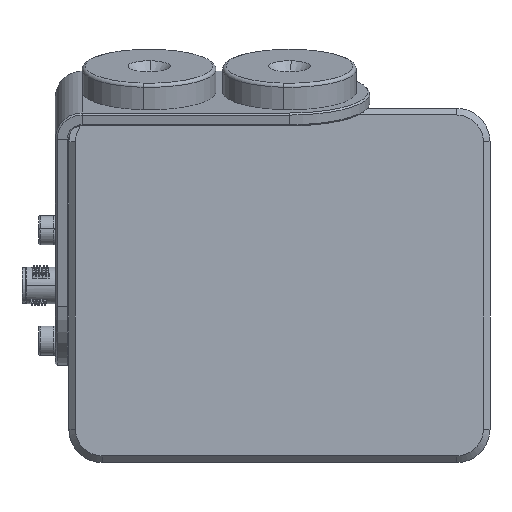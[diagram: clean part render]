
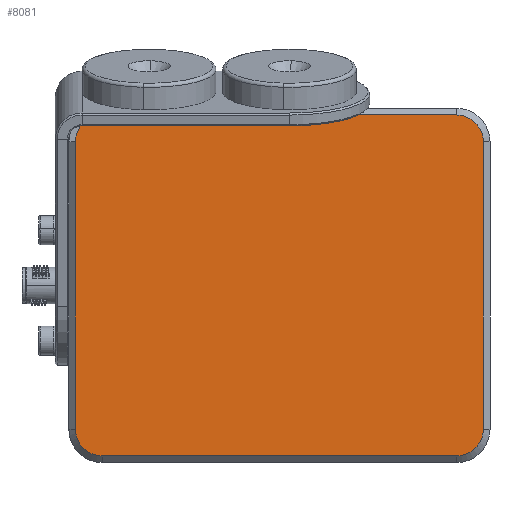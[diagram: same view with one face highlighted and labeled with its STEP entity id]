
A CAD part, front view. The second image highlights one B-rep face of the part: STEP entity #8081.
In plain terms, the highlighted planar face has unit normal (0, -1, 0).
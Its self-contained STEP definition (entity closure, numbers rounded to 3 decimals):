
#331 = CARTESIAN_POINT ( 'NONE',  ( 48.364, -14.091, -51. ) ) ;
#451 = DIRECTION ( 'NONE',  ( 0., -1., 0. ) ) ;
#1039 = EDGE_CURVE ( 'NONE', #18177, #10612, #2800, .T. ) ;
#1529 = EDGE_LOOP ( 'NONE', ( #23645, #26268, #7251, #26240, #24291, #6234, #19821, #16571 ) ) ;
#2025 = VERTEX_POINT ( 'NONE', #17130 ) ;
#2070 = FACE_OUTER_BOUND ( 'NONE', #1529, .T. ) ;
#2258 = CARTESIAN_POINT ( 'NONE',  ( -57.636, -14.091, -51. ) ) ;
#2746 = VECTOR ( 'NONE', #17248, 1000. ) ;
#2800 = CIRCLE ( 'NONE', #15396, 8. ) ;
#2822 = LINE ( 'NONE', #16993, #7758 ) ;
#3100 = LINE ( 'NONE', #22736, #8040 ) ;
#3317 = CARTESIAN_POINT ( 'NONE',  ( 48.364, -14.091, 43. ) ) ;
#3408 = LINE ( 'NONE', #19338, #2746 ) ;
#3499 = AXIS2_PLACEMENT_3D ( 'NONE', #13107, #451, #15180 ) ;
#4133 = VERTEX_POINT ( 'NONE', #23093 ) ;
#4311 = VERTEX_POINT ( 'NONE', #11503 ) ;
#4454 = DIRECTION ( 'NONE',  ( 0., 0., -1. ) ) ;
#5469 = DIRECTION ( 'NONE',  ( 0., 0., -1. ) ) ;
#5539 = CARTESIAN_POINT ( 'NONE',  ( -65.636, -14.091, 43. ) ) ;
#6098 = CARTESIAN_POINT ( 'NONE',  ( 48.364, -14.091, -43. ) ) ;
#6234 = ORIENTED_EDGE ( 'NONE', *, *, #1039, .T. ) ;
#6526 = PLANE ( 'NONE',  #3499 ) ;
#7251 = ORIENTED_EDGE ( 'NONE', *, *, #16131, .T. ) ;
#7598 = EDGE_CURVE ( 'NONE', #8656, #18029, #26530, .T. ) ;
#7758 = VECTOR ( 'NONE', #4454, 1000. ) ;
#8040 = VECTOR ( 'NONE', #12347, 1000. ) ;
#8081 = ADVANCED_FACE ( 'NONE', ( #2070 ), #6526, .T. ) ;
#8201 = DIRECTION ( 'NONE',  ( 0., 0., -1. ) ) ;
#8656 = VERTEX_POINT ( 'NONE', #22487 ) ;
#9184 = AXIS2_PLACEMENT_3D ( 'NONE', #6098, #20748, #8201 ) ;
#9333 = DIRECTION ( 'NONE',  ( 0., -1., 0. ) ) ;
#10032 = DIRECTION ( 'NONE',  ( 0., 0., 1. ) ) ;
#10384 = DIRECTION ( 'NONE',  ( 0., 0., -1. ) ) ;
#10422 = DIRECTION ( 'NONE',  ( 0., -1., 0. ) ) ;
#10473 = CARTESIAN_POINT ( 'NONE',  ( -57.636, -14.091, 43. ) ) ;
#10612 = VERTEX_POINT ( 'NONE', #5539 ) ;
#10950 = EDGE_CURVE ( 'NONE', #4133, #18177, #3100, .T. ) ;
#11503 = CARTESIAN_POINT ( 'NONE',  ( 56.364, -14.091, -43. ) ) ;
#12105 = LINE ( 'NONE', #20539, #23204 ) ;
#12347 = DIRECTION ( 'NONE',  ( -1., 0., 0. ) ) ;
#13107 = CARTESIAN_POINT ( 'NONE',  ( 58.364, -14.091, -53. ) ) ;
#13796 = EDGE_CURVE ( 'NONE', #18029, #24778, #3408, .T. ) ;
#15180 = DIRECTION ( 'NONE',  ( 0., 0., -1. ) ) ;
#15396 = AXIS2_PLACEMENT_3D ( 'NONE', #10473, #10422, #10384 ) ;
#16131 = EDGE_CURVE ( 'NONE', #4311, #2025, #12105, .T. ) ;
#16571 = ORIENTED_EDGE ( 'NONE', *, *, #7598, .T. ) ;
#16776 = AXIS2_PLACEMENT_3D ( 'NONE', #3317, #18034, #5469 ) ;
#16993 = CARTESIAN_POINT ( 'NONE',  ( -65.636, -14.091, -43. ) ) ;
#17130 = CARTESIAN_POINT ( 'NONE',  ( 56.364, -14.091, 43. ) ) ;
#17140 = EDGE_CURVE ( 'NONE', #24778, #4311, #23451, .T. ) ;
#17248 = DIRECTION ( 'NONE',  ( 1., 0., 0. ) ) ;
#18029 = VERTEX_POINT ( 'NONE', #2258 ) ;
#18034 = DIRECTION ( 'NONE',  ( 0., -1., 0. ) ) ;
#18177 = VERTEX_POINT ( 'NONE', #19478 ) ;
#18665 = EDGE_CURVE ( 'NONE', #2025, #4133, #20771, .T. ) ;
#19338 = CARTESIAN_POINT ( 'NONE',  ( 48.364, -14.091, -51. ) ) ;
#19478 = CARTESIAN_POINT ( 'NONE',  ( -57.636, -14.091, 51. ) ) ;
#19821 = ORIENTED_EDGE ( 'NONE', *, *, #24459, .T. ) ;
#20539 = CARTESIAN_POINT ( 'NONE',  ( 56.364, -14.091, 43. ) ) ;
#20748 = DIRECTION ( 'NONE',  ( 0., -1., 0. ) ) ;
#20771 = CIRCLE ( 'NONE', #16776, 8. ) ;
#21907 = CARTESIAN_POINT ( 'NONE',  ( -57.636, -14.091, -43. ) ) ;
#22487 = CARTESIAN_POINT ( 'NONE',  ( -65.636, -14.091, -43. ) ) ;
#22736 = CARTESIAN_POINT ( 'NONE',  ( -57.636, -14.091, 51. ) ) ;
#23093 = CARTESIAN_POINT ( 'NONE',  ( 48.364, -14.091, 51. ) ) ;
#23204 = VECTOR ( 'NONE', #10032, 1000. ) ;
#23451 = CIRCLE ( 'NONE', #9184, 8. ) ;
#23645 = ORIENTED_EDGE ( 'NONE', *, *, #13796, .T. ) ;
#23978 = DIRECTION ( 'NONE',  ( 0., 0., -1. ) ) ;
#24291 = ORIENTED_EDGE ( 'NONE', *, *, #10950, .T. ) ;
#24459 = EDGE_CURVE ( 'NONE', #10612, #8656, #2822, .T. ) ;
#24778 = VERTEX_POINT ( 'NONE', #331 ) ;
#26240 = ORIENTED_EDGE ( 'NONE', *, *, #18665, .T. ) ;
#26268 = ORIENTED_EDGE ( 'NONE', *, *, #17140, .T. ) ;
#26530 = CIRCLE ( 'NONE', #26637, 8. ) ;
#26637 = AXIS2_PLACEMENT_3D ( 'NONE', #21907, #9333, #23978 ) ;
